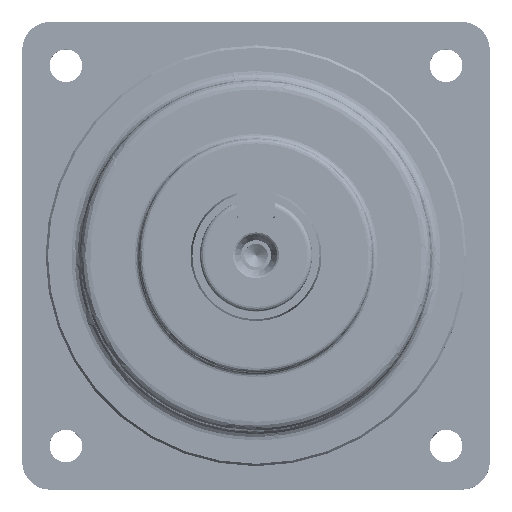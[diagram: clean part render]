
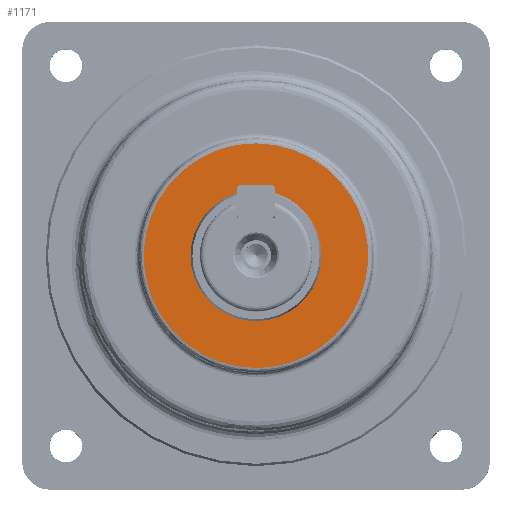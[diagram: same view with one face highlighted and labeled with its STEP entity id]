
A CAD part, top view. The second image highlights one B-rep face of the part: STEP entity #1171.
In plain terms, the highlighted planar face has unit normal (0, 0, 1).
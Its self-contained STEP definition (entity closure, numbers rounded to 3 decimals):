
#764 = VERTEX_POINT ( 'NONE', #4477 ) ;
#794 = CARTESIAN_POINT ( 'NONE',  ( -0.216, -23.999, 18. ) ) ;
#1171 = ADVANCED_FACE ( 'NONE', ( #4667, #21736 ), #2312, .T. ) ;
#1383 = EDGE_CURVE ( 'NONE', #13052, #5741, #16594, .T. ) ;
#1716 = CARTESIAN_POINT ( 'NONE',  ( 0., 24., 18. ) ) ;
#1912 = AXIS2_PLACEMENT_3D ( 'NONE', #11582, #29299, #6152 ) ;
#1933 = ORIENTED_EDGE ( 'NONE', *, *, #1383, .T. ) ;
#2074 =( BOUNDED_CURVE ( )  B_SPLINE_CURVE ( 3, ( #11081, #28595, #18335, #13322 ),
 .UNSPECIFIED., .F., .F. ) 
 B_SPLINE_CURVE_WITH_KNOTS ( ( 4, 4 ),
 ( 0.003, 1. ),
 .UNSPECIFIED. ) 
 CURVE ( )  GEOMETRIC_REPRESENTATION_ITEM ( )  RATIONAL_B_SPLINE_CURVE ( ( 1., 0.336, 0.336, 1. ) ) 
 REPRESENTATION_ITEM ( '' )  );
#2100 = AXIS2_PLACEMENT_3D ( 'NONE', #9990, #27805, #19992 ) ;
#2312 = PLANE ( 'NONE',  #2100 ) ;
#2316 = EDGE_LOOP ( 'NONE', ( #1933, #24786 ) ) ;
#4461 = CARTESIAN_POINT ( 'NONE',  ( 0., -24., 18. ) ) ;
#4477 = CARTESIAN_POINT ( 'NONE',  ( 0.216, 23.999, 18. ) ) ;
#4521 = CARTESIAN_POINT ( 'NONE',  ( 0.072, 24., 18. ) ) ;
#4667 = FACE_BOUND ( 'NONE', #2316, .T. ) ;
#5497 = CARTESIAN_POINT ( 'NONE',  ( -0.216, -23.999, 18. ) ) ;
#5741 = VERTEX_POINT ( 'NONE', #27289 ) ;
#6152 = DIRECTION ( 'NONE',  ( 1., 0., 0. ) ) ;
#6325 = VERTEX_POINT ( 'NONE', #24313 ) ;
#7309 = VERTEX_POINT ( 'NONE', #4461 ) ;
#7653 = EDGE_CURVE ( 'NONE', #764, #7309, #2074, .T. ) ;
#8553 = CARTESIAN_POINT ( 'NONE',  ( 0., -24., 18. ) ) ;
#8854 = CARTESIAN_POINT ( 'NONE',  ( 0.144, 24., 18. ) ) ;
#9990 = CARTESIAN_POINT ( 'NONE',  ( 0., 0., 18. ) ) ;
#11081 = CARTESIAN_POINT ( 'NONE',  ( 0.216, 23.999, 18. ) ) ;
#11582 = CARTESIAN_POINT ( 'NONE',  ( 0., 0., 18. ) ) ;
#13052 = VERTEX_POINT ( 'NONE', #18809 ) ;
#13240 = CARTESIAN_POINT ( 'NONE',  ( 0., 24., 18. ) ) ;
#13322 = CARTESIAN_POINT ( 'NONE',  ( 0., -24., 18. ) ) ;
#15998 = CIRCLE ( 'NONE', #24787, 14. ) ;
#16594 = CIRCLE ( 'NONE', #1912, 14. ) ;
#17759 = CARTESIAN_POINT ( 'NONE',  ( 0.216, 23.999, 18. ) ) ;
#18335 = CARTESIAN_POINT ( 'NONE',  ( 47.571, -24., 18. ) ) ;
#18667 =( BOUNDED_CURVE ( )  B_SPLINE_CURVE ( 3, ( #1716, #4521, #8854, #17759 ),
 .UNSPECIFIED., .F., .F. ) 
 B_SPLINE_CURVE_WITH_KNOTS ( ( 4, 4 ),
 ( 0., 0.003 ),
 .UNSPECIFIED. ) 
 CURVE ( )  GEOMETRIC_REPRESENTATION_ITEM ( )  RATIONAL_B_SPLINE_CURVE ( ( 1., 1., 1., 1. ) ) 
 REPRESENTATION_ITEM ( '' )  );
#18809 = CARTESIAN_POINT ( 'NONE',  ( 14., 0., 18. ) ) ;
#19703 =( BOUNDED_CURVE ( )  B_SPLINE_CURVE ( 3, ( #8553, #28927, #27263, #22087 ),
 .UNSPECIFIED., .F., .F. ) 
 B_SPLINE_CURVE_WITH_KNOTS ( ( 4, 4 ),
 ( 0., 0.003 ),
 .UNSPECIFIED. ) 
 CURVE ( )  GEOMETRIC_REPRESENTATION_ITEM ( )  RATIONAL_B_SPLINE_CURVE ( ( 1., 1., 1., 1. ) ) 
 REPRESENTATION_ITEM ( '' )  );
#19992 = DIRECTION ( 'NONE',  ( 1., 0., 0. ) ) ;
#20167 = EDGE_LOOP ( 'NONE', ( #22054, #32409, #20219, #21008 ) ) ;
#20219 = ORIENTED_EDGE ( 'NONE', *, *, #28948, .F. ) ;
#21008 = ORIENTED_EDGE ( 'NONE', *, *, #7653, .F. ) ;
#21393 = DIRECTION ( 'NONE',  ( 1., 0., 0. ) ) ;
#21722 = EDGE_CURVE ( 'NONE', #29964, #6325, #26056, .T. ) ;
#21736 = FACE_OUTER_BOUND ( 'NONE', #20167, .T. ) ;
#22054 = ORIENTED_EDGE ( 'NONE', *, *, #23540, .F. ) ;
#22087 = CARTESIAN_POINT ( 'NONE',  ( -0.216, -23.999, 18. ) ) ;
#23540 = EDGE_CURVE ( 'NONE', #6325, #764, #18667, .T. ) ;
#24290 = DIRECTION ( 'NONE',  ( 0., 0., -1. ) ) ;
#24313 = CARTESIAN_POINT ( 'NONE',  ( 0., 24., 18. ) ) ;
#24786 = ORIENTED_EDGE ( 'NONE', *, *, #29452, .T. ) ;
#24787 = AXIS2_PLACEMENT_3D ( 'NONE', #29003, #24290, #21393 ) ;
#25957 = CARTESIAN_POINT ( 'NONE',  ( -47.785, -23.571, 18. ) ) ;
#26056 =( BOUNDED_CURVE ( )  B_SPLINE_CURVE ( 3, ( #5497, #25957, #28515, #13240 ),
 .UNSPECIFIED., .F., .F. ) 
 B_SPLINE_CURVE_WITH_KNOTS ( ( 4, 4 ),
 ( 0.003, 1. ),
 .UNSPECIFIED. ) 
 CURVE ( )  GEOMETRIC_REPRESENTATION_ITEM ( )  RATIONAL_B_SPLINE_CURVE ( ( 1., 0.336, 0.336, 1. ) ) 
 REPRESENTATION_ITEM ( '' )  );
#27263 = CARTESIAN_POINT ( 'NONE',  ( -0.144, -24., 18. ) ) ;
#27289 = CARTESIAN_POINT ( 'NONE',  ( -14., 0., 18. ) ) ;
#27805 = DIRECTION ( 'NONE',  ( 0., 0., 1. ) ) ;
#28515 = CARTESIAN_POINT ( 'NONE',  ( -47.571, 24., 18. ) ) ;
#28595 = CARTESIAN_POINT ( 'NONE',  ( 47.785, 23.571, 18. ) ) ;
#28927 = CARTESIAN_POINT ( 'NONE',  ( -0.072, -24., 18. ) ) ;
#28948 = EDGE_CURVE ( 'NONE', #7309, #29964, #19703, .T. ) ;
#29003 = CARTESIAN_POINT ( 'NONE',  ( 0., 0., 18. ) ) ;
#29299 = DIRECTION ( 'NONE',  ( 0., 0., -1. ) ) ;
#29452 = EDGE_CURVE ( 'NONE', #5741, #13052, #15998, .T. ) ;
#29964 = VERTEX_POINT ( 'NONE', #794 ) ;
#32409 = ORIENTED_EDGE ( 'NONE', *, *, #21722, .F. ) ;
